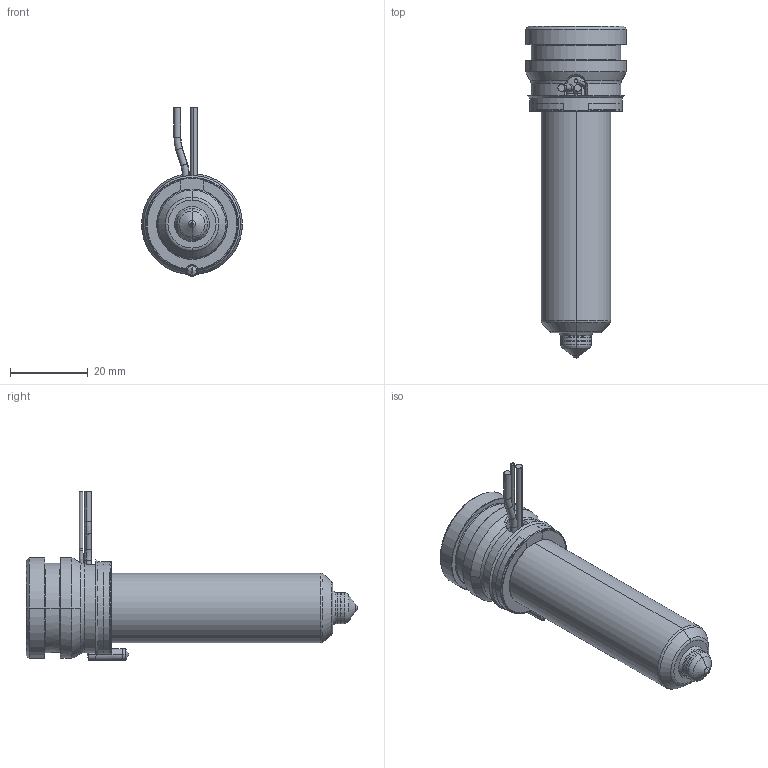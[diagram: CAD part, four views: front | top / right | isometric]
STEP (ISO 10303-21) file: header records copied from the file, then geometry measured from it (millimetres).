
FILE_DESCRIPTION((''),'2;1');
FILE_NAME('MPN-08-24-TX8-066-A','2026-02-05T11:54:14',('UPTIO'),('Thermoplay S.p.A.'),'CREO PARAMETRIC BY PTC INC, 2023494','CREO PARAMETRIC BY PTC INC, 2023494','');
FILE_SCHEMA(('CONFIG_CONTROL_DESIGN','SHAPE_APPEARANCE_LAYERS_GROUPS'));
Length unit declared in the file: millimetre
Products named in the file (1): MPN-08-24-TX8-066-A
Bounding box: 26 x 85.5 x 43.5 mm (x, y, z)
Volume: 17643 mm3; surface area: 21450.2 mm2
Topology: 2 solids, 3 shells, 548 faces, 1458 edges, 904 vertices
Faces by surface type: cylinder 180, plane 144, bspline 82, torus 64, cone 60, sphere 12, extrusion 6
Entity records: 30196 total; most frequent: CARTESIAN_POINT 13850, ORIENTED_EDGE 2896, DIRECTION 2574, EDGE_CURVE 1448, AXIS2_PLACEMENT_3D 1006, VERTEX_POINT 904, EDGE_LOOP 576, VECTOR 562
